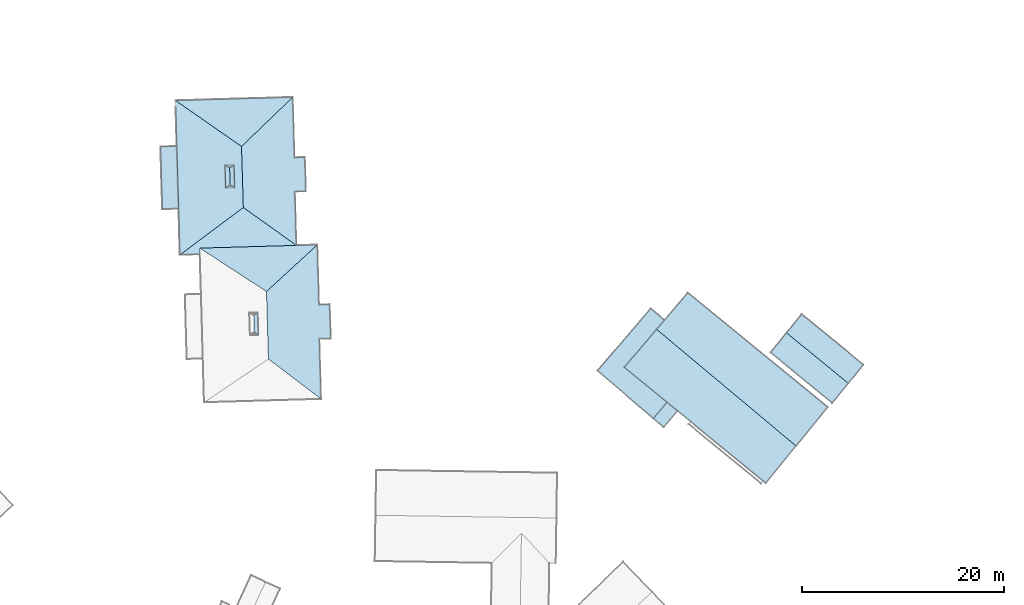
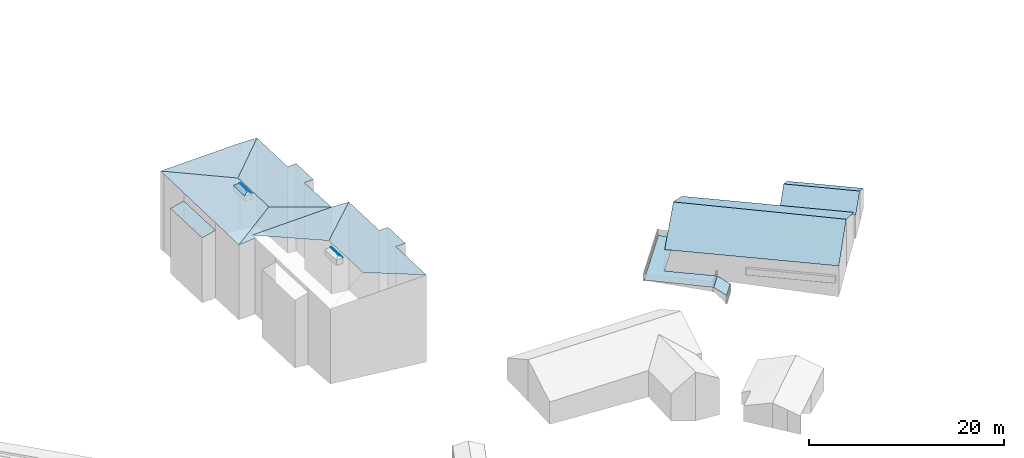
# Not in any storey, part 133 of 136: 32 roofs.
"""IFC2X3 building model written with IfcOpenShell, lengths in metres."""

from ifc_helpers import new_model, entity, si_unit, converted_unit, frame, origin, place, context, subcontext, project, spatial, face_set, surface_model, element, save


model = new_model("IFC2X3")

# Units and contexts
model_context = context("Model", 3, precision=1e-05, world=origin())
body_context = subcontext(model_context, "Body", "Model", "MODEL_VIEW")
ifc_project = project(units=[converted_unit("PLANEANGLEUNIT", "DEGREE", entity("IfcRatioMeasure", 0.0174532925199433), si_unit("PLANEANGLEUNIT", "RADIAN"), dimensions=[0, 0, 0, 0, 0, 0, 0]), si_unit("AREAUNIT", "SQUARE_METRE"), si_unit("LENGTHUNIT", "METRE")], contexts=[model_context])

# Site, building
site_placement = place(None, origin())
site = spatial("IfcSite", under=ifc_project, at=site_placement, Name="_site", CompositionType="ELEMENT")
building_1_placement = place(site_placement, origin())
building_1 = spatial("IfcBuilding", under=site, at=building_1_placement, Name="_building", CompositionType="ELEMENT")

# Roofs
for number, where, name in (
    (1, (0.0, 0.0, 0.0), "Roof"),
    (2, (0.0, 0.0, 0.0), "Roof"),
):
    element("IfcRoof", number, at=place(building_1_placement, frame(where)), inside=building_1, Name=name, ShapeType="NOTDEFINED", context=body_context, shape_type="SurfaceModel", body=[
        surface_model("IfcFaceBasedSurfaceModel", [(119.29, 144.7, 53.1), (113.03, 140.01, 53.37), (115.0, 140.07, 53.5), (114.99, 140.68, 53.5), (124.54, 140.95, 53.5)], [face_set([[[0, 1, 2, 3, 4]]])]),
    ])
roof_1_placement = place(building_1_placement, origin())
element("IfcRoof", 3, at=roof_1_placement, inside=building_1, Name="Roof", ShapeType="NOTDEFINED", context=body_context, shape_type="SurfaceModel", body=[
    surface_model("IfcFaceBasedSurfaceModel", [(119.11, 150.73, 53.1), (124.18, 155.601, 53.37), (122.14, 155.54, 53.5), (112.59, 155.271, 53.5)], [face_set([[[0, 1, 2, 3]]])]),
])
roof_2_placement = place(building_1_placement, origin())
element("IfcRoof", 4, at=roof_2_placement, inside=building_1, Name="Roof", ShapeType="NOTDEFINED", context=body_context, shape_type="SurfaceModel", body=[
    surface_model("IfcFaceBasedSurfaceModel", [(117.49, 148.87, 53.87), (117.55, 146.63, 53.87), (117.98, 146.93, 54.14), (117.94, 148.601, 54.14)], [face_set([[[0, 1, 2, 3]]])]),
])
roof_3_placement = place(building_1_placement, origin())
element("IfcRoof", 5, at=roof_3_placement, inside=building_1, Name="Roof", ShapeType="NOTDEFINED", context=body_context, shape_type="SurfaceModel", body=[
    surface_model("IfcFaceBasedSurfaceModel", [(119.11, 150.73, 53.1), (124.18, 155.601, 53.37), (122.14, 155.54, 53.5), (112.59, 155.271, 53.5)], [face_set([[[0, 1, 2, 3]]])]),
])
roof_4_placement = place(building_1_placement, origin())
element("IfcRoof", 6, at=roof_4_placement, inside=building_1, Name="Roof", ShapeType="NOTDEFINED", context=body_context, shape_type="SurfaceModel", body=[
    surface_model("IfcFaceBasedSurfaceModel", [(117.98, 146.93, 54.14), (118.44, 146.65, 53.87), (118.38, 148.89, 53.87), (117.94, 148.601, 54.14)], [face_set([[[0, 1, 2, 3]]])]),
])
for number, where, name in (
    (7, (0.0, 0.0, 0.0), "Roof"),
    (8, (0.0, 0.0, 0.0), "Roof"),
):
    element("IfcRoof", number, at=place(building_1_placement, frame(where)), inside=building_1, Name=name, ShapeType="NOTDEFINED", context=body_context, shape_type="SurfaceModel", body=[
        surface_model("IfcFaceBasedSurfaceModel", [(112.9, 144.57, 52.47), (112.72, 150.75, 52.47), (111.11, 150.7, 52.12), (111.29, 144.521, 52.12)], [face_set([[[0, 1, 2, 3]]])]),
    ])
roof_5_placement = place(building_1_placement, origin())
element("IfcRoof", 9, at=roof_5_placement, inside=building_1, Name="Roof", ShapeType="NOTDEFINED", context=body_context, shape_type="SurfaceModel", body=[
    surface_model("IfcFaceBasedSurfaceModel", [(119.29, 144.7, 53.1), (124.54, 140.95, 53.5), (124.39, 146.271, 53.37), (125.48, 146.3, 53.37), (125.38, 149.66, 53.37), (124.35, 149.63, 53.37), (124.18, 155.601, 53.37), (119.11, 150.73, 53.1)], [face_set([[[0, 1, 2, 3, 4, 5, 6, 7]]])]),
])
roof_6_placement = place(building_1_placement, origin())
element("IfcRoof", 10, at=roof_6_placement, inside=building_1, Name="Roof", ShapeType="NOTDEFINED", context=body_context, shape_type="SurfaceModel", body=[
    surface_model("IfcFaceBasedSurfaceModel", [(117.98, 146.93, 54.14), (118.44, 146.65, 53.87), (118.38, 148.89, 53.87), (117.94, 148.601, 54.14)], [face_set([[[0, 1, 2, 3]]])]),
])
roof_7_placement = place(building_1_placement, origin())
element("IfcRoof", 11, at=roof_7_placement, inside=building_1, Name="Roof", ShapeType="NOTDEFINED", context=body_context, shape_type="SurfaceModel", body=[
    surface_model("IfcFaceBasedSurfaceModel", [(119.29, 144.7, 53.1), (124.54, 140.95, 53.5), (124.39, 146.271, 53.37), (125.48, 146.3, 53.37), (125.38, 149.66, 53.37), (124.35, 149.63, 53.37), (124.18, 155.601, 53.37), (119.11, 150.73, 53.1)], [face_set([[[0, 1, 2, 3, 4, 5, 6, 7]]])]),
])
for number, where, name in (
    (12, (0.0, 0.0, 0.0), "Roof"),
    (13, (0.0, 0.0, 0.0), "Roof"),
):
    element("IfcRoof", number, at=place(building_1_placement, frame(where)), inside=building_1, Name=name, ShapeType="NOTDEFINED", context=body_context, shape_type="SurfaceModel", body=[
        surface_model("IfcFaceBasedSurfaceModel", [(119.11, 150.73, 53.1), (112.59, 155.271, 53.5), (112.61, 154.61, 53.5), (112.72, 150.75, 53.46), (112.9, 144.57, 53.41), (113.03, 140.01, 53.37), (119.29, 144.7, 53.1)], [face_set([[[0, 1, 2, 3, 4, 5, 6]]])]),
    ])
roof_8_placement = place(building_1_placement, origin())
element("IfcRoof", 14, at=roof_8_placement, inside=building_1, Name="Roof", ShapeType="NOTDEFINED", context=body_context, shape_type="SurfaceModel", body=[
    surface_model("IfcFaceBasedSurfaceModel", [(117.49, 148.87, 53.87), (117.55, 146.63, 53.87), (117.98, 146.93, 54.14), (117.94, 148.601, 54.14)], [face_set([[[0, 1, 2, 3]]])]),
])

# Building
building_2_placement = place(site_placement, origin())
building_2 = spatial("IfcBuilding", under=site, at=building_2_placement, Name="_building", CompositionType="ELEMENT")

# Roofs
roof_9_placement = place(building_2_placement, origin())
element("IfcRoof", 15, at=roof_9_placement, inside=building_2, Name="Roof", ShapeType="NOTDEFINED", context=body_context, shape_type="SurfaceModel", body=[
    surface_model("IfcFaceBasedSurfaceModel", [(120.37, 132.41, 54.14), (120.79, 132.08, 53.87), (120.73, 134.3, 53.87), (120.32, 134.01, 54.14)], [face_set([[[0, 1, 2, 3]]])]),
])
roof_10_placement = place(building_2_placement, origin())
element("IfcRoof", 16, at=roof_10_placement, inside=building_2, Name="Roof", ShapeType="NOTDEFINED", context=body_context, shape_type="SurfaceModel", body=[
    surface_model("IfcFaceBasedSurfaceModel", [(121.77, 129.72, 53.1), (126.98, 125.76, 53.37), (126.81, 131.7, 53.37), (127.94, 131.73, 53.37), (127.84, 135.11, 53.37), (126.78, 135.08, 53.37), (126.61, 141.01, 53.37), (121.58, 136.39, 53.1)], [face_set([[[0, 1, 2, 3, 4, 5, 6, 7]]])]),
])
roof_11_placement = place(building_2_placement, origin())
element("IfcRoof", 17, at=roof_11_placement, inside=building_2, Name="Roof", ShapeType="NOTDEFINED", context=body_context, shape_type="SurfaceModel", body=[
    surface_model("IfcFaceBasedSurfaceModel", [(120.37, 132.41, 54.14), (120.79, 132.08, 53.87), (120.73, 134.3, 53.87), (120.32, 134.01, 54.14)], [face_set([[[0, 1, 2, 3]]])]),
])
roof_12_placement = place(building_2_placement, origin())
element("IfcRoof", 18, at=roof_12_placement, inside=building_2, Name="Roof", ShapeType="NOTDEFINED", context=body_context, shape_type="SurfaceModel", body=[
    surface_model("IfcFaceBasedSurfaceModel", [(121.58, 136.39, 53.1), (126.61, 141.01, 53.37), (124.54, 140.95, 53.5), (114.99, 140.68, 53.5)], [face_set([[[0, 1, 2, 3]]])]),
])
roof_13_placement = place(building_2_placement, origin())
element("IfcRoof", 19, at=roof_13_placement, inside=building_2, Name="Roof", ShapeType="NOTDEFINED", context=body_context, shape_type="SurfaceModel", body=[
    surface_model("IfcFaceBasedSurfaceModel", [(121.77, 129.72, 53.1), (126.98, 125.76, 53.37), (126.81, 131.7, 53.37), (127.94, 131.73, 53.37), (127.84, 135.11, 53.37), (126.78, 135.08, 53.37), (126.61, 141.01, 53.37), (121.58, 136.39, 53.1)], [face_set([[[0, 1, 2, 3, 4, 5, 6, 7]]])]),
])
roof_14_placement = place(building_2_placement, origin())
element("IfcRoof", 20, at=roof_14_placement, inside=building_2, Name="Roof", ShapeType="NOTDEFINED", context=body_context, shape_type="SurfaceModel", body=[
    surface_model("IfcFaceBasedSurfaceModel", [(121.58, 136.39, 53.1), (126.61, 141.01, 53.37), (124.54, 140.95, 53.5), (114.99, 140.68, 53.5)], [face_set([[[0, 1, 2, 3]]])]),
])

# Building
building_3_placement = place(site_placement, origin())
building_3 = spatial("IfcBuilding", under=site, at=building_3_placement, Name="_building", CompositionType="ELEMENT")

# Roofs
roof_15_placement = place(building_3_placement, origin())
element("IfcRoof", 21, at=roof_15_placement, inside=building_3, Name="Roof", ShapeType="NOTDEFINED", context=body_context, shape_type="SurfaceModel", body=[
    surface_model("IfcFaceBasedSurfaceModel", [(161.18, 125.43, 41.48), (156.95, 128.89, 41.48), (160.92, 133.55, 41.48), (159.56, 134.7, 41.48), (154.31, 128.54, 41.48), (159.83, 123.84, 41.48)], [face_set([[[0, 1, 2, 3, 4, 5]]])]),
])
roof_16_placement = place(building_3_placement, origin())
element("IfcRoof", 22, at=roof_16_placement, inside=building_3, Name="Roof", ShapeType="NOTDEFINED", context=body_context, shape_type="SurfaceModel", body=[
    surface_model("IfcFaceBasedSurfaceModel", [(160.15, 132.65, 46.71), (156.95, 128.89, 44.15), (170.93, 117.45, 44.15), (173.93, 121.12, 46.71)], [face_set([[[0, 1, 2, 3]]])]),
])
roof_17_placement = place(building_3_placement, origin())
element("IfcRoof", 23, at=roof_17_placement, inside=building_3, Name="Roof", ShapeType="NOTDEFINED", context=body_context, shape_type="SurfaceModel", body=[
    surface_model("IfcFaceBasedSurfaceModel", [(162.22, 124.58, 40.63), (161.18, 125.43, 41.48), (159.83, 123.84, 41.48), (160.85, 122.97, 40.63)], [face_set([[[0, 1, 2, 3]]])]),
])
roof_18_placement = place(building_3_placement, origin())
element("IfcRoof", 24, at=roof_18_placement, inside=building_3, Name="Roof", ShapeType="NOTDEFINED", context=body_context, shape_type="SurfaceModel", body=[
    surface_model("IfcFaceBasedSurfaceModel", [(173.93, 121.12, 46.71), (177.06, 124.95, 44.15), (163.24, 136.26, 44.15), (160.15, 132.65, 46.71)], [face_set([[[0, 1, 2, 3]]])]),
])
roof_19_placement = place(building_3_placement, origin())
element("IfcRoof", 25, at=roof_19_placement, inside=building_3, Name="Roof", ShapeType="NOTDEFINED", context=body_context, shape_type="SurfaceModel", body=[
    surface_model("IfcFaceBasedSurfaceModel", [(160.15, 132.65, 46.71), (156.95, 128.89, 44.15), (170.93, 117.45, 44.15), (173.93, 121.12, 46.71)], [face_set([[[0, 1, 2, 3]]])]),
])
roof_20_placement = place(building_3_placement, origin())
element("IfcRoof", 26, at=roof_20_placement, inside=building_3, Name="Roof", ShapeType="NOTDEFINED", context=body_context, shape_type="SurfaceModel", body=[
    surface_model("IfcFaceBasedSurfaceModel", [(162.22, 124.58, 40.63), (161.18, 125.43, 41.48), (159.83, 123.84, 41.48), (160.85, 122.97, 40.63)], [face_set([[[0, 1, 2, 3]]])]),
])
roof_21_placement = place(building_3_placement, origin())
element("IfcRoof", 27, at=roof_21_placement, inside=building_3, Name="Roof", ShapeType="NOTDEFINED", context=body_context, shape_type="SurfaceModel", body=[
    surface_model("IfcFaceBasedSurfaceModel", [(161.18, 125.43, 41.48), (156.95, 128.89, 41.48), (160.92, 133.55, 41.48), (159.56, 134.7, 41.48), (154.31, 128.54, 41.48), (159.83, 123.84, 41.48)], [face_set([[[0, 1, 2, 3, 4, 5]]])]),
])
roof_22_placement = place(building_3_placement, origin())
element("IfcRoof", 28, at=roof_22_placement, inside=building_3, Name="Roof", ShapeType="NOTDEFINED", context=body_context, shape_type="SurfaceModel", body=[
    surface_model("IfcFaceBasedSurfaceModel", [(173.93, 121.12, 46.71), (177.06, 124.95, 44.15), (163.24, 136.26, 44.15), (160.15, 132.65, 46.71)], [face_set([[[0, 1, 2, 3]]])]),
])

# Building
building_4_placement = place(site_placement, origin())
building_4 = spatial("IfcBuilding", under=site, at=building_4_placement, Name="_building", CompositionType="ELEMENT")

# Roofs
roof_23_placement = place(building_4_placement, origin())
element("IfcRoof", 29, at=roof_23_placement, inside=building_4, Name="Roof", ShapeType="NOTDEFINED", context=body_context, shape_type="SurfaceModel", body=[
    surface_model("IfcFaceBasedSurfaceModel", [(173.0, 132.3, 44.67), (171.41, 130.36, 43.38), (177.5, 125.37, 43.38), (179.1, 127.311, 44.67)], [face_set([[[0, 1, 2, 3]]])]),
])
roof_24_placement = place(building_4_placement, origin())
element("IfcRoof", 30, at=roof_24_placement, inside=building_4, Name="Roof", ShapeType="NOTDEFINED", context=body_context, shape_type="SurfaceModel", body=[
    surface_model("IfcFaceBasedSurfaceModel", [(179.1, 127.311, 44.67), (180.59, 129.14, 43.38), (174.49, 134.13, 43.38), (173.0, 132.3, 44.67)], [face_set([[[0, 1, 2, 3]]])]),
])
roof_25_placement = place(building_4_placement, origin())
element("IfcRoof", 31, at=roof_25_placement, inside=building_4, Name="Roof", ShapeType="NOTDEFINED", context=body_context, shape_type="SurfaceModel", body=[
    surface_model("IfcFaceBasedSurfaceModel", [(173.0, 132.3, 44.67), (171.41, 130.36, 43.38), (177.5, 125.37, 43.38), (179.1, 127.311, 44.67)], [face_set([[[0, 1, 2, 3]]])]),
])
roof_26_placement = place(building_4_placement, origin())
element("IfcRoof", 32, at=roof_26_placement, inside=building_4, Name="Roof", ShapeType="NOTDEFINED", context=body_context, shape_type="SurfaceModel", body=[
    surface_model("IfcFaceBasedSurfaceModel", [(179.1, 127.311, 44.67), (180.59, 129.14, 43.38), (174.49, 134.13, 43.38), (173.0, 132.3, 44.67)], [face_set([[[0, 1, 2, 3]]])]),
])

save(model, "model.ifc")
